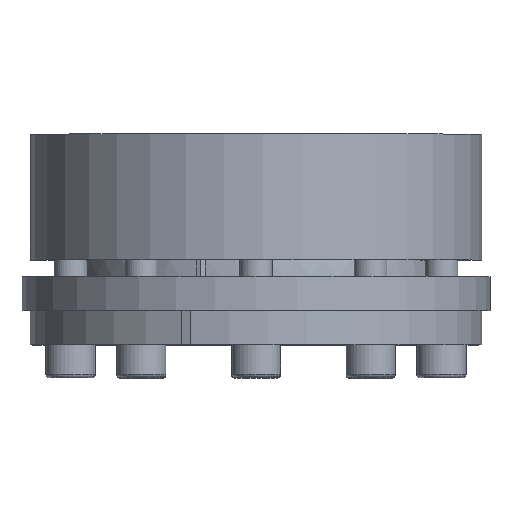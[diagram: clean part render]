
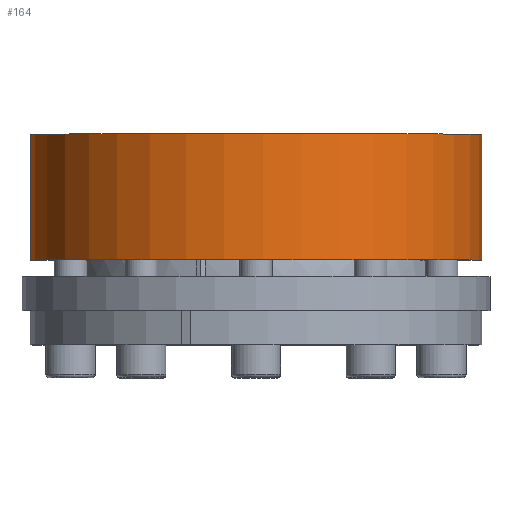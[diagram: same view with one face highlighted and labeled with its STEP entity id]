
A CAD part, top view. The second image highlights one B-rep face of the part: STEP entity #164.
In plain terms, the highlighted cylindrical face has radius 82.5 mm (diameter 165 mm), a partial arc.
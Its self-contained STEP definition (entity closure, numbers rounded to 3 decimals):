
#164 = ADVANCED_FACE( '', ( #378 ), #379, .T. );
#378 = FACE_OUTER_BOUND( '', #600, .T. );
#379 = CYLINDRICAL_SURFACE( '', #601, 82.5 );
#600 = EDGE_LOOP( '', ( #1028, #1029, #1030, #1031 ) );
#601 = AXIS2_PLACEMENT_3D( '', #1032, #1033, #1034 );
#1028 = ORIENTED_EDGE( '', *, *, #1278, .F. );
#1029 = ORIENTED_EDGE( '', *, *, #1190, .T. );
#1030 = ORIENTED_EDGE( '', *, *, #1154, .T. );
#1031 = ORIENTED_EDGE( '', *, *, #1274, .F. );
#1032 = CARTESIAN_POINT( '', ( 0., -60., 0. ) );
#1033 = DIRECTION( '', ( 0., 1., 0. ) );
#1034 = DIRECTION( '', ( 0., 0., -1. ) );
#1154 = EDGE_CURVE( '', #1388, #1389, #1390, .T. );
#1190 = EDGE_CURVE( '', #1444, #1388, #1449, .F. );
#1274 = EDGE_CURVE( '', #1569, #1389, #1570, .F. );
#1278 = EDGE_CURVE( '', #1444, #1569, #1575, .T. );
#1388 = VERTEX_POINT( '', #1774 );
#1389 = VERTEX_POINT( '', #1775 );
#1390 = CIRCLE( '', #1776, 82.5 );
#1444 = VERTEX_POINT( '', #1846 );
#1449 = LINE( '', #1856, #1857 );
#1569 = VERTEX_POINT( '', #1998 );
#1570 = LINE( '', #1999, #2000 );
#1575 = CIRCLE( '', #2006, 82.5 );
#1774 = CARTESIAN_POINT( '', ( 27.058, 77., -77.937 ) );
#1775 = CARTESIAN_POINT( '', ( 23.92, 77., -78.956 ) );
#1776 = AXIS2_PLACEMENT_3D( '', #2096, #2097, #2098 );
#1846 = CARTESIAN_POINT( '', ( 27.058, 31., -77.937 ) );
#1856 = CARTESIAN_POINT( '', ( 27.058, -60., -77.937 ) );
#1857 = VECTOR( '', #2144, 1000. );
#1998 = CARTESIAN_POINT( '', ( 23.92, 31., -78.956 ) );
#1999 = CARTESIAN_POINT( '', ( 23.92, -60., -78.956 ) );
#2000 = VECTOR( '', #2283, 1000. );
#2006 = AXIS2_PLACEMENT_3D( '', #2288, #2289, #2290 );
#2096 = CARTESIAN_POINT( '', ( 0., 77., 0. ) );
#2097 = DIRECTION( '', ( 0., -1., 0. ) );
#2098 = DIRECTION( '', ( 0., 0., -1. ) );
#2144 = DIRECTION( '', ( 0., -1., 0. ) );
#2283 = DIRECTION( '', ( 0., -1., 0. ) );
#2288 = CARTESIAN_POINT( '', ( 0., 31., 0. ) );
#2289 = DIRECTION( '', ( 0., -1., 0. ) );
#2290 = DIRECTION( '', ( 0., 0., -1. ) );
